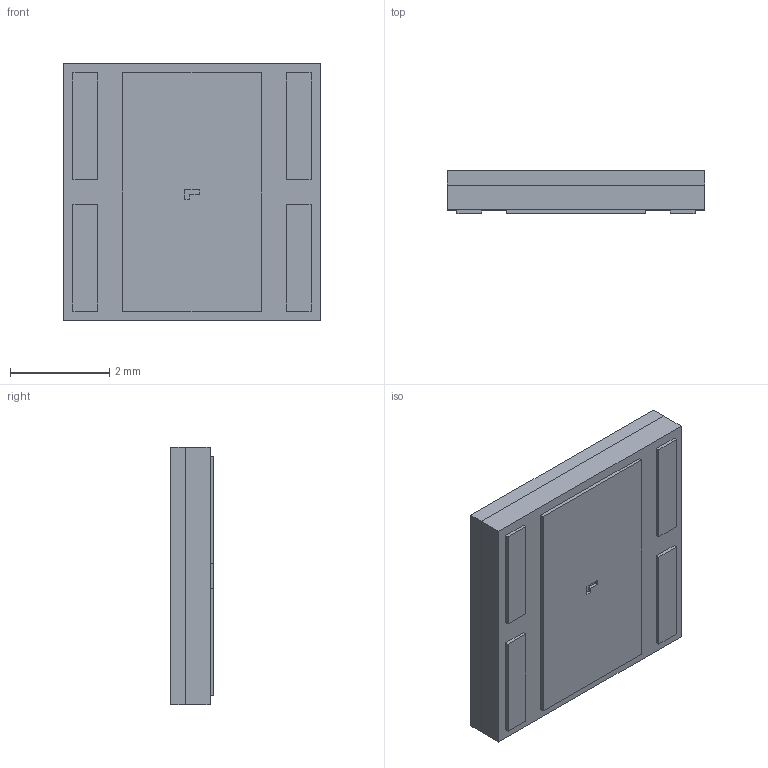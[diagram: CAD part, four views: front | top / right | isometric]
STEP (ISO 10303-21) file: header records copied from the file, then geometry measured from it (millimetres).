
FILE_DESCRIPTION (( 'STEP AP203' ), '1' );
FILE_NAME ('PG.STEP', '2024-01-19T06:02:01', ( '' ), ( '' ), 'SwSTEP 2.0', 'SolidWorks 2016', '' );
FILE_SCHEMA (( 'CONFIG_CONTROL_DESIGN' ));
Length unit declared in the file: millimetre
Products named in the file (1): PG
Bounding box: 5.2 x 0.86 x 5.2 mm (x, y, z)
Surface area: 167 mm2
Topology: 3 solids, 3 shells, 54 faces, 126 edges, 84 vertices
Faces by surface type: plane 54
Entity records: 1587 total; most frequent: CARTESIAN_POINT 265, ORIENTED_EDGE 252, DIRECTION 236, LINE 126, EDGE_CURVE 126, VECTOR 126, VERTEX_POINT 84, EDGE_LOOP 62
